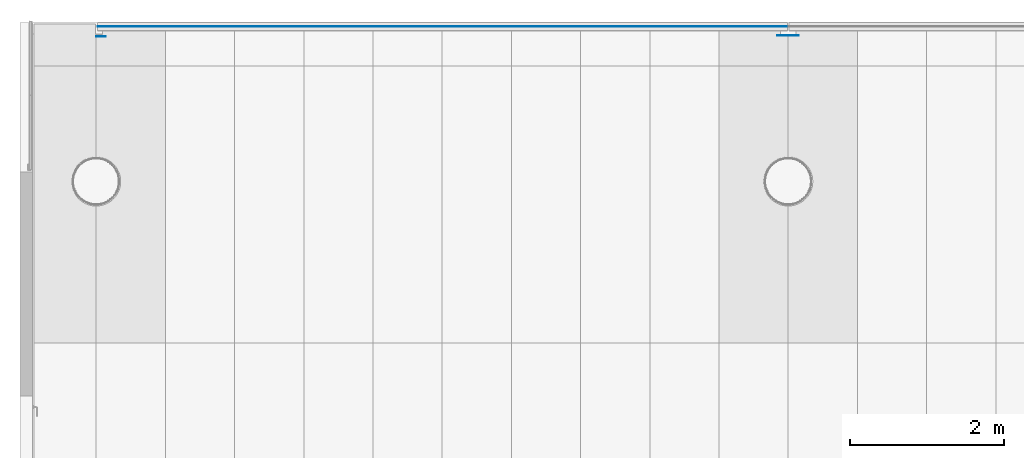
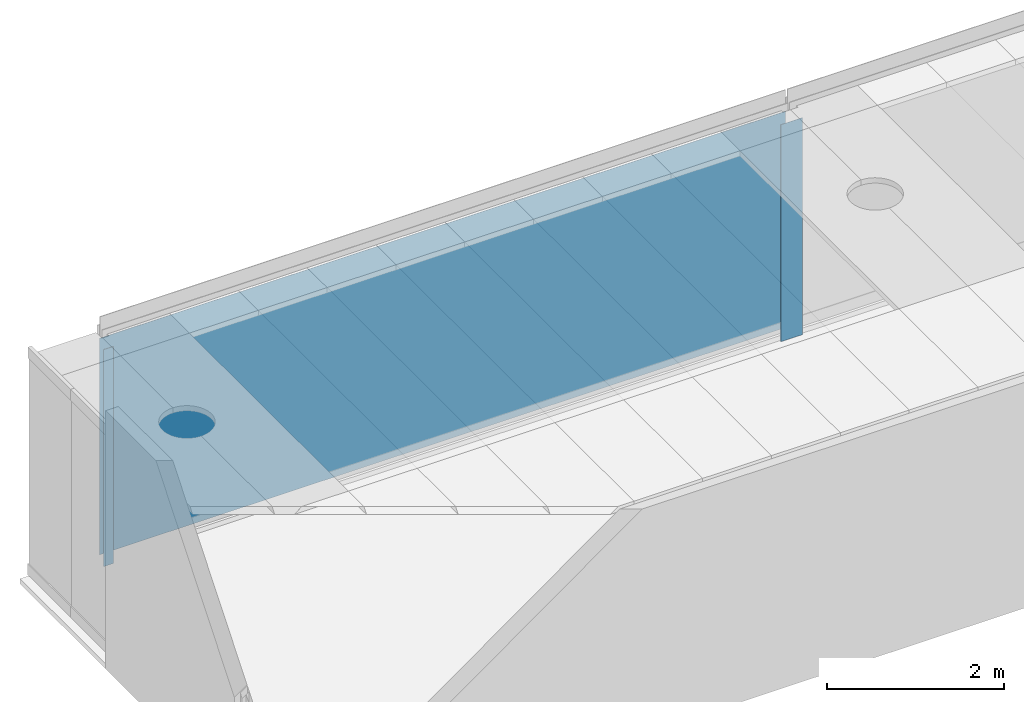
# One storey, part 2 of 12: 3 plates, 1 element without a shape of its own.
"""IFC2X3 building model written with IfcOpenShell, lengths in millimetres."""

from ifc_helpers import new_model, entity, si_unit, converted_unit, derived_unit, direction, frame, frame_2d, origin, origin_with_axes, origin_2d_with_axis, place, context, subcontext, project, spatial, rectangle, extrude, source, transform, mapped, material, type_object, element, aggregate, save


model = new_model("IFC2X3")

# Units and contexts
model_context = context("Model", 3, precision=0.01, world=frame((0.0, 4.29681676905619e-09, 0.0)), true_north=direction((6.12323399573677e-17, 1.0)))
plan_context = context("Plan", 3, precision=0.01, world=frame((0.0, 4.29681676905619e-09, 0.0)), true_north=direction((6.12323399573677e-17, 1.0)))
body_context = subcontext(model_context, "Body", "Model", "MODEL_VIEW")
ifc_project = project(units=[converted_unit("PLANEANGLEUNIT", "DEGREE", entity("IfcPositiveLengthMeasure", 0.0174532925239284), si_unit("PLANEANGLEUNIT", "RADIAN"), dimensions=[0, 0, 0, 0, 0, 0, 0]), si_unit("AREAUNIT", "SQUARE_METRE"), si_unit("LENGTHUNIT", "METRE", prefix="MILLI"), si_unit("MASSUNIT", "GRAM", prefix="KILO"), si_unit("POWERUNIT", "WATT"), si_unit("PRESSUREUNIT", "PASCAL", prefix="KILO"), si_unit("FORCEUNIT", "NEWTON", prefix="KILO"), si_unit("ELECTRICVOLTAGEUNIT", "VOLT"), si_unit("ELECTRICCURRENTUNIT", "AMPERE"), si_unit("THERMODYNAMICTEMPERATUREUNIT", "DEGREE_CELSIUS"), si_unit("TIMEUNIT", "SECOND"), si_unit("VOLUMEUNIT", "CUBIC_METRE"), derived_unit("LINEARVELOCITYUNIT", [(si_unit("LENGTHUNIT", "METRE"), 1), (si_unit("TIMEUNIT", "SECOND"), -1)]), derived_unit("VOLUMETRICFLOWRATEUNIT", [(si_unit("VOLUMEUNIT", "CUBIC_METRE"), 1), (si_unit("TIMEUNIT", "SECOND"), -1)]), derived_unit("THERMALTRANSMITTANCEUNIT", [(si_unit("POWERUNIT", "WATT"), 1), (si_unit("THERMODYNAMICTEMPERATUREUNIT", "KELVIN"), -1), (si_unit("AREAUNIT", "SQUARE_METRE"), -1)]), derived_unit("SOUNDPRESSUREUNIT", [(si_unit("PRESSUREUNIT", "PASCAL"), 1)])], contexts=[model_context, plan_context])

# Site, building, storey
site_placement = place(None, origin_with_axes())
site = spatial("IfcSite", under=ifc_project, at=site_placement, Name="ENGM", CompositionType="ELEMENT")
building_placement = place(site_placement, origin_with_axes())
building = spatial("IfcBuilding", under=site, at=building_placement, Name="TH", CompositionType="ELEMENT")
storey_placement = place(building_placement, frame((0.0, 0.0, 210200.0), z_axis=(0.0, 0.0, 1.0), x_axis=(1.0, 0.0, 0.0)))
storey = spatial("IfcBuildingStorey", under=building, at=storey_placement, Name="Nivå F - 0,7 m", CompositionType="ELEMENT", Elevation=210200.0)

# Curtain wall, plate
curtain_wall_type = type_object("IfcCurtainWallType", PredefinedType="NOTDEFINED")
curtain_wall_placement = place(storey_placement, frame((0.0, 0.0, -210200.0), z_axis=(0.0, 0.0, 1.0), x_axis=(1.0, 0.0, 0.0)))
curtain_wall = element("IfcCurtainWall", 1, at=curtain_wall_placement, inside=storey, type_object=curtain_wall_type)
ifc_material_1 = material(Name="Metallforheng")
plate_type_1 = type_object("IfcPlateType", Name="System Panel:A240 - IV-M01 Metallforheng", PredefinedType="CURTAIN_PANEL", material=ifc_material_1)
shared_shape_1 = source(origin(), body_context, "Body", "SweptSolid", [
    extrude(rectangle(XDim=3.0, YDim=8970.00000000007, at=origin_2d_with_axis()), frame((0.0, 1.5, 0.0), z_axis=(0.0, 0.0, 1.0), x_axis=(0.0, 1.0, 0.0)), (0.0, 0.0, 1.0), 2992.00000000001),
])
plate_1_placement = place(curtain_wall_placement, frame((1121505.0, 468414.499999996, 210208.0), z_axis=(0.0, 0.0, 1.0), x_axis=(1.0, 0.0, 0.0)))
plate_1 = element("IfcPlate", 2, at=plate_1_placement, type_object=plate_type_1, material=ifc_material_1, Name="System Panel:A240 - IV-M01 Metallforheng", ObjectType="System Panel:A240 - IV-M01 Metallforheng", context=body_context, shape_type="MappedRepresentation", body=[
    mapped(shared_shape_1, transform((0.0, 0.0, 0.0), scale=1.0)),
])
aggregate(curtain_wall, [plate_1])

# Plates
ifc_material_2 = material(Name="<Unnamed>")
plate_type_2 = type_object("IfcPlateType", Name="A243 - Beskyttelse lyssensor metallforheng:A243 - Beskyttelse lyssensor metallforheng", PredefinedType="NOTDEFINED", material=ifc_material_2)
shared_shape_2 = source(origin(), body_context, "Body", "SweptSolid", [
    extrude(rectangle(XDim=124.989655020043, YDim=4.00000000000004, at=origin_2d_with_axis()), frame((0.0, -2.0, 0.0)), (0.0, 0.0, 1.0), 3000.0),
])
plate_2_placement = place(storey_placement, frame((1117062.50517233, 468285.02076025, -70.0), z_axis=(0.0, 0.0, 1.0), x_axis=(-1.0, 0.0, 0.0)))
element("IfcPlate", 3, at=plate_2_placement, inside=storey, type_object=plate_type_2, material=ifc_material_2, Name="A243 - Beskyttelse lyssensor metallforheng:A243 - Beskyttelse lyssensor metallforheng", ObjectType="A243 - Beskyttelse lyssensor metallforheng:A243 - Beskyttelse lyssensor metallforheng", context=body_context, shape_type="MappedRepresentation", body=[
    mapped(shared_shape_2, transform((0.0, 0.0, 0.0), scale=1.0)),
])
plate_type_3 = type_object("IfcPlateType", Name="A243 - Beskyttelse lyssensor metallforheng:A243 - Beskyttelse lyssensor metallforheng", PredefinedType="NOTDEFINED", material=ifc_material_2)
shared_shape_3 = source(origin(), body_context, "Body", "SweptSolid", [
    extrude(rectangle(XDim=280.0, YDim=4.00000000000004, at=frame_2d((-1.4210854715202e-14, 0.0), x_axis=(1.0, 0.0))), frame((0.0, -2.0, 0.0)), (0.0, 0.0, 1.0), 3000.0),
])
plate_3_placement = place(storey_placement, frame((1126000.0, 468298.999999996, -70.0), z_axis=(0.0, 0.0, 1.0), x_axis=(1.0, 0.0, 0.0)))
element("IfcPlate", 4, at=plate_3_placement, inside=storey, type_object=plate_type_3, material=ifc_material_2, Name="A243 - Beskyttelse lyssensor metallforheng:A243 - Beskyttelse lyssensor metallforheng", ObjectType="A243 - Beskyttelse lyssensor metallforheng:A243 - Beskyttelse lyssensor metallforheng", context=body_context, shape_type="MappedRepresentation", body=[
    mapped(shared_shape_3, transform((0.0, 0.0, 0.0), scale=1.0)),
])

save(model, "model.ifc")
